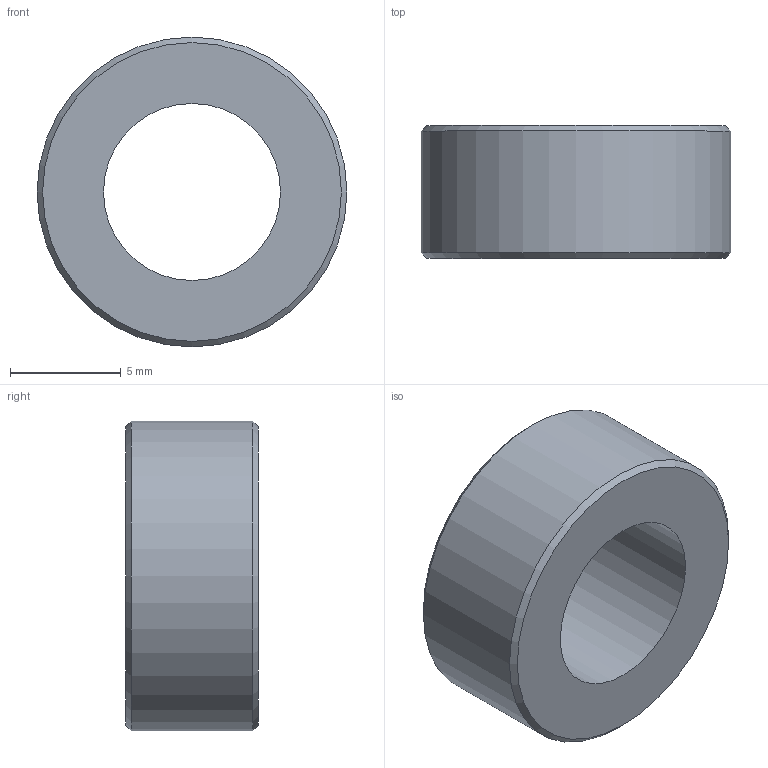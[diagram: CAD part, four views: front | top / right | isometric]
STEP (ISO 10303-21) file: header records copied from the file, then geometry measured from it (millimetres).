
FILE_DESCRIPTION(/* description */ ('','CAx-IF Rec.Pracs.---Representation and Presentation of Product Manufacturing Information (PMI)---4.0---2014-10-13'),/* implementation_level */ '2;1');
FILE_NAME(/* name */ 'Aluminium Spacer - 8mm - 6mm.step',/* time_stamp */ '2024-11-30T18:23:38+02:00',/* author */ (''),/* organization */ (''),/* preprocessor_version */ 'ST-DEVELOPER v20',/* originating_system */ 'Autodesk Translation Framework v13.20.0.188',/* authorisation */ '');
FILE_SCHEMA (('AP242_MANAGED_MODEL_BASED_3D_ENGINEERING_MIM_LF { 1 0 10303 442 1 1 4 }'));
Length unit declared in the file: millimetre
Products named in the file (1): Aluminium Spacer -  8mm - 6mm
Bounding box: 14 x 6 x 14 mm (x, y, z)
Volume: 619.3 mm3; surface area: 609 mm2
Topology: 1 solids, 1 shells, 6 faces, 10 edges, 6 vertices
Faces by surface type: cone 2, cylinder 2, plane 2
Full cylindrical faces by diameter (mm): 8 x1, 14 x1
Entity records: 181 total; most frequent: DIRECTION 30, CARTESIAN_POINT 23, ORIENTED_EDGE 20, AXIS2_PLACEMENT_3D 13, EDGE_CURVE 10, EDGE_LOOP 8, FACE_OUTER_BOUND 6, CIRCLE 6
